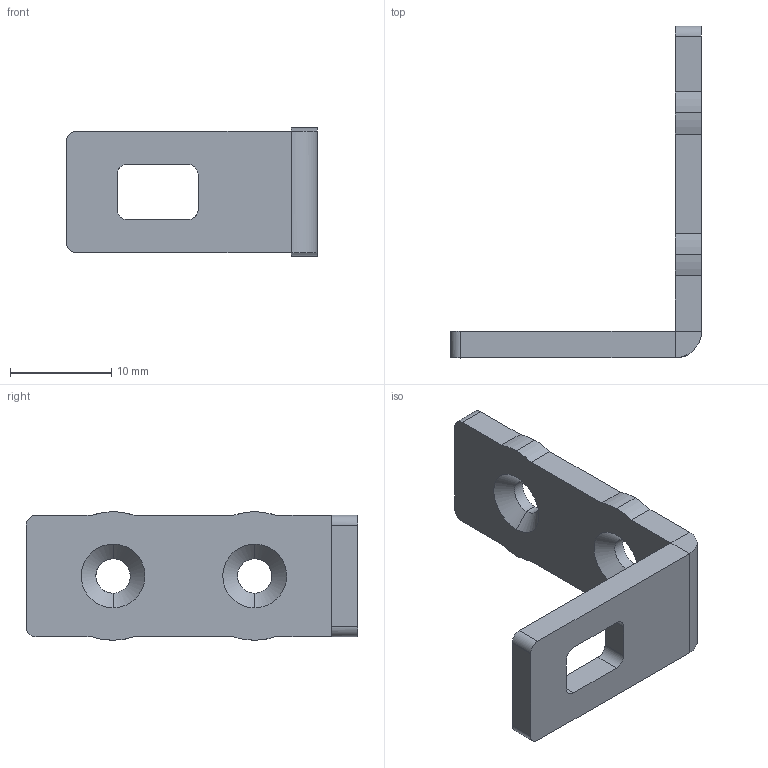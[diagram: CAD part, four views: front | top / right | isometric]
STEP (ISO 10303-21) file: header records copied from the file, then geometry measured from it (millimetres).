
FILE_DESCRIPTION (( 'STEP AP203' ), '1' );
FILE_NAME ('Hook_NL02.STEP', '2023-12-26T06:18:09', ( '' ), ( '' ), 'SwSTEP 2.0', 'SolidWorks 2023', '' );
FILE_SCHEMA (( 'CONFIG_CONTROL_DESIGN' ));
Length unit declared in the file: millimetre
Products named in the file (1): Hook_NL02
Bounding box: 24.8 x 32.8 x 12.7 mm (x, y, z)
Volume: 1518.2 mm3; surface area: 1640.6 mm2
Topology: 1 solids, 1 shells, 43 faces, 111 edges, 70 vertices
Faces by surface type: bspline 43
Entity records: 1475 total; most frequent: CARTESIAN_POINT 743, ORIENTED_EDGE 222, EDGE_CURVE 111, B_SPLINE_CURVE_WITH_KNOTS 84, VERTEX_POINT 70, EDGE_LOOP 49, ADVANCED_FACE 43, FACE_OUTER_BOUND 43
